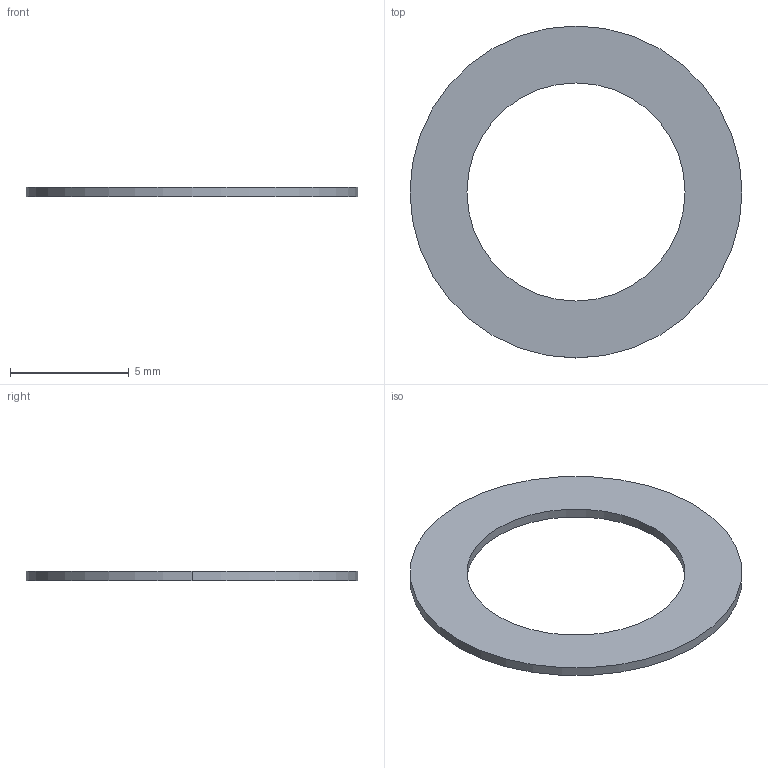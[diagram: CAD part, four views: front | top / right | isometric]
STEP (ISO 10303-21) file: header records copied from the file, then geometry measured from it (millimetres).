
FILE_DESCRIPTION (( 'STEP AP203' ), '1' );
FILE_NAME ('34-1034-1A.STEP', '2026-09-15T19:32:57', ( '' ), ( '' ), 'SwSTEP 2.0', 'SolidWorks 2026', '' );
FILE_SCHEMA (( 'CONFIG_CONTROL_DESIGN' ));
Length unit declared in the file: millimetre
Products named in the file (1): 34-1034-1A
Bounding box: 14 x 14 x 0.4 mm (x, y, z)
Volume: 35 mm3; surface area: 204.1 mm2
Topology: 1 solids, 1 shells, 6 faces, 12 edges, 8 vertices
Faces by surface type: cylinder 4, plane 2
Entity records: 245 total; most frequent: DIRECTION 34, CARTESIAN_POINT 27, ORIENTED_EDGE 24, AXIS2_PLACEMENT_3D 15, EDGE_CURVE 12, VERTEX_POINT 8, PERSON_AND_ORGANIZATION 8, CIRCLE 8
